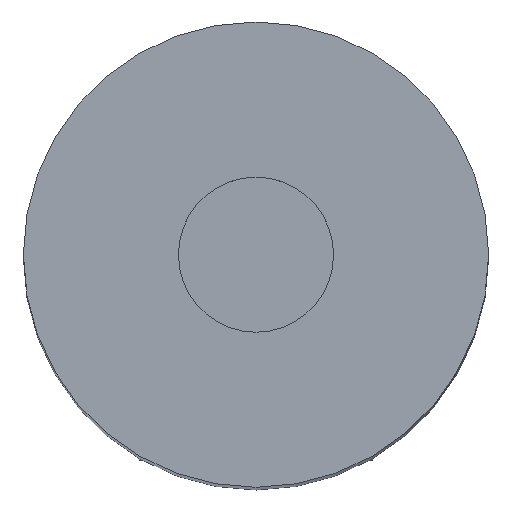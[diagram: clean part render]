
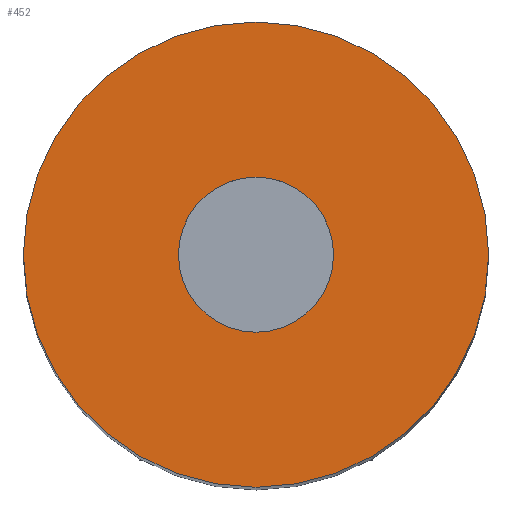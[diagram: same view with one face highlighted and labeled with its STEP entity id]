
A CAD part, top view. The second image highlights one B-rep face of the part: STEP entity #452.
In plain terms, the highlighted planar face has unit normal (0, 0, 1) as drawn and (-1, 0, 0) by its records, which use the part's own axes.
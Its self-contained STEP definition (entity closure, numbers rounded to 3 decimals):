
#5 = CIRCLE ( 'NONE', #26, 0.75 ) ;
#9 = CIRCLE ( 'NONE', #18, 0.25 ) ;
#10 = CARTESIAN_POINT ( 'NONE',  ( 0., 0., -0.25 ) ) ;
#14 = CARTESIAN_POINT ( 'NONE',  ( 0., 0., 0. ) ) ;
#15 = CARTESIAN_POINT ( 'NONE',  ( 0., 0., 0.25 ) ) ;
#16 = DIRECTION ( 'NONE',  ( 0., 0., 1. ) ) ;
#17 = DIRECTION ( 'NONE',  ( -1., 0., 0. ) ) ;
#18 = AXIS2_PLACEMENT_3D ( 'NONE', #14, #17, #16 ) ;
#20 = CIRCLE ( 'NONE', #24, 0.75 ) ;
#23 = CARTESIAN_POINT ( 'NONE',  ( 0., 0., 0. ) ) ;
#24 = AXIS2_PLACEMENT_3D ( 'NONE', #23, #25, #30 ) ;
#25 = DIRECTION ( 'NONE',  ( 1., 0., 0. ) ) ;
#26 = AXIS2_PLACEMENT_3D ( 'NONE', #34, #33, #35 ) ;
#29 = PLANE ( 'NONE',  #36 ) ;
#30 = DIRECTION ( 'NONE',  ( 0., 0., -1. ) ) ;
#31 = DIRECTION ( 'NONE',  ( 0., 0., -1. ) ) ;
#32 = DIRECTION ( 'NONE',  ( 1., 0., 0. ) ) ;
#33 = DIRECTION ( 'NONE',  ( 1., 0., 0. ) ) ;
#34 = CARTESIAN_POINT ( 'NONE',  ( 0., 0., 0. ) ) ;
#35 = DIRECTION ( 'NONE',  ( 0., 0., -1. ) ) ;
#36 = AXIS2_PLACEMENT_3D ( 'NONE', #37, #32, #31 ) ;
#37 = CARTESIAN_POINT ( 'NONE',  ( 0., 0., 0. ) ) ;
#121 = FACE_OUTER_BOUND ( 'NONE', #466, .T. ) ;
#127 = FACE_BOUND ( 'NONE', #453, .T. ) ;
#137 = CARTESIAN_POINT ( 'NONE',  ( 0., 0., 0.75 ) ) ;
#194 = DIRECTION ( 'NONE',  ( 0., 0., 1. ) ) ;
#195 = DIRECTION ( 'NONE',  ( -1., 0., 0. ) ) ;
#196 = CARTESIAN_POINT ( 'NONE',  ( 0., 0., 0. ) ) ;
#197 = AXIS2_PLACEMENT_3D ( 'NONE', #196, #195, #194 ) ;
#198 = CIRCLE ( 'NONE', #197, 0.25 ) ;
#339 = ORIENTED_EDGE ( 'NONE', *, *, #431, .F. ) ;
#366 = VERTEX_POINT ( 'NONE', #606 ) ;
#378 = VERTEX_POINT ( 'NONE', #10 ) ;
#380 = EDGE_CURVE ( 'NONE', #378, #381, #9, .T. ) ;
#381 = VERTEX_POINT ( 'NONE', #15 ) ;
#431 = EDGE_CURVE ( 'NONE', #366, #436, #20, .T. ) ;
#436 = VERTEX_POINT ( 'NONE', #137 ) ;
#452 = ADVANCED_FACE ( 'NONE', ( #127, #121 ), #29, .F. ) ;
#453 = EDGE_LOOP ( 'NONE', ( #454, #465 ) ) ;
#454 = ORIENTED_EDGE ( 'NONE', *, *, #464, .F. ) ;
#456 = EDGE_CURVE ( 'NONE', #436, #366, #5, .T. ) ;
#464 = EDGE_CURVE ( 'NONE', #381, #378, #198, .T. ) ;
#465 = ORIENTED_EDGE ( 'NONE', *, *, #380, .F. ) ;
#466 = EDGE_LOOP ( 'NONE', ( #467, #339 ) ) ;
#467 = ORIENTED_EDGE ( 'NONE', *, *, #456, .F. ) ;
#606 = CARTESIAN_POINT ( 'NONE',  ( 0., 0., -0.75 ) ) ;
